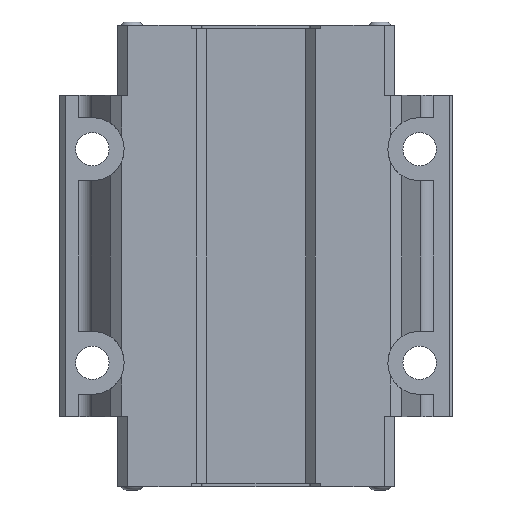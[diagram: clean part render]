
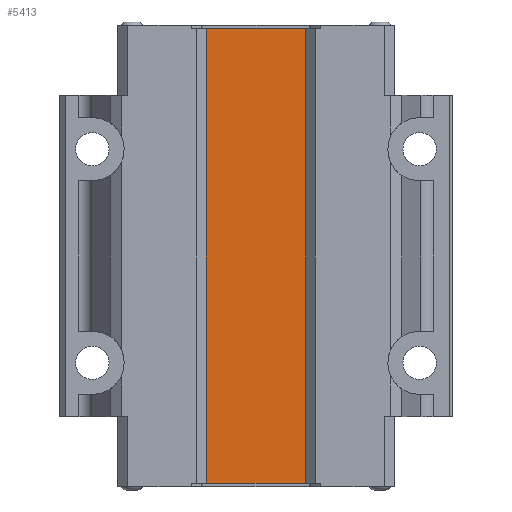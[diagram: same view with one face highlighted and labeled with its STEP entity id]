
A CAD part, front view. The second image highlights one B-rep face of the part: STEP entity #5413.
In plain terms, the highlighted planar face has unit normal (0, -1, 0).
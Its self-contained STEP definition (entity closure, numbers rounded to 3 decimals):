
#168 = DIRECTION ( 'NONE',  ( -1., 0., 0. ) ) ;
#233 = FACE_OUTER_BOUND ( 'NONE', #2908, .T. ) ;
#895 = DIRECTION ( 'NONE',  ( 0., 0., 1. ) ) ;
#1098 = VECTOR ( 'NONE', #168, 1000. ) ;
#2067 = VERTEX_POINT ( 'NONE', #6855 ) ;
#2207 = VERTEX_POINT ( 'NONE', #10195 ) ;
#2390 = CARTESIAN_POINT ( 'NONE',  ( 8.305, -0.07, -10. ) ) ;
#2782 = DIRECTION ( 'NONE',  ( -1., 0., 0. ) ) ;
#2908 = EDGE_LOOP ( 'NONE', ( #7691, #5031, #6860, #6390 ) ) ;
#3251 = VERTEX_POINT ( 'NONE', #9836 ) ;
#3256 = LINE ( 'NONE', #8996, #1098 ) ;
#3308 = CARTESIAN_POINT ( 'NONE',  ( 8.308, -0.07, 58.1 ) ) ;
#3443 = EDGE_CURVE ( 'NONE', #3251, #2207, #5510, .T. ) ;
#3787 = EDGE_CURVE ( 'NONE', #5989, #2067, #3256, .T. ) ;
#4036 = DIRECTION ( 'NONE',  ( 0., 0., -1. ) ) ;
#4453 = CARTESIAN_POINT ( 'NONE',  ( 8.305, -0.07, 58.1 ) ) ;
#4736 = LINE ( 'NONE', #5692, #6628 ) ;
#5031 = ORIENTED_EDGE ( 'NONE', *, *, #6468, .T. ) ;
#5413 = ADVANCED_FACE ( 'NONE', ( #233 ), #7976, .T. ) ;
#5510 = LINE ( 'NONE', #4453, #9807 ) ;
#5686 = AXIS2_PLACEMENT_3D ( 'NONE', #2390, #8828, #4036 ) ;
#5692 = CARTESIAN_POINT ( 'NONE',  ( -8.308, -0.07, -10. ) ) ;
#5989 = VERTEX_POINT ( 'NONE', #7281 ) ;
#6390 = ORIENTED_EDGE ( 'NONE', *, *, #8270, .T. ) ;
#6468 = EDGE_CURVE ( 'NONE', #2207, #2067, #4736, .T. ) ;
#6628 = VECTOR ( 'NONE', #7266, 1000. ) ;
#6855 = CARTESIAN_POINT ( 'NONE',  ( -8.308, -0.07, -10. ) ) ;
#6860 = ORIENTED_EDGE ( 'NONE', *, *, #3787, .F. ) ;
#7266 = DIRECTION ( 'NONE',  ( 0., 0., -1. ) ) ;
#7281 = CARTESIAN_POINT ( 'NONE',  ( 8.308, -0.07, -10. ) ) ;
#7691 = ORIENTED_EDGE ( 'NONE', *, *, #3443, .T. ) ;
#7831 = LINE ( 'NONE', #3308, #9467 ) ;
#7976 = PLANE ( 'NONE',  #5686 ) ;
#8270 = EDGE_CURVE ( 'NONE', #5989, #3251, #7831, .T. ) ;
#8828 = DIRECTION ( 'NONE',  ( 0., -1., 0. ) ) ;
#8996 = CARTESIAN_POINT ( 'NONE',  ( 8.39, -0.07, -10. ) ) ;
#9467 = VECTOR ( 'NONE', #895, 1000. ) ;
#9807 = VECTOR ( 'NONE', #2782, 1000. ) ;
#9836 = CARTESIAN_POINT ( 'NONE',  ( 8.308, -0.07, 58.1 ) ) ;
#10195 = CARTESIAN_POINT ( 'NONE',  ( -8.308, -0.07, 58.1 ) ) ;
